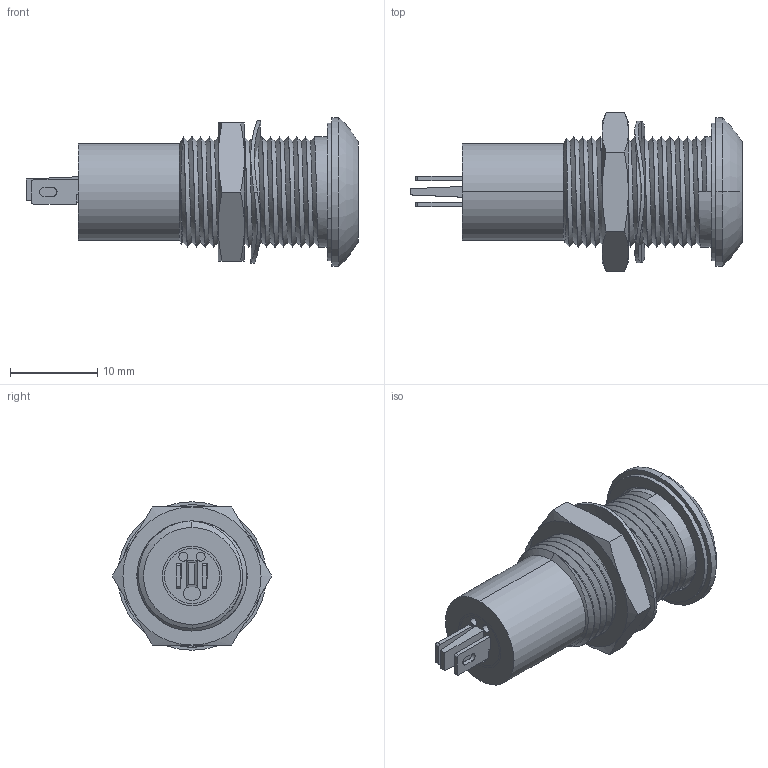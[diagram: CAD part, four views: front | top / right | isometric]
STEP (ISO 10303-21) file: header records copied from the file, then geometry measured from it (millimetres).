
FILE_DESCRIPTION (( 'STEP AP203' ), '1' );
FILE_NAME ('699 Series Above 50V.STEP', '2016-08-04T15:19:06', ( '' ), ( '' ), 'SwSTEP 2.0', 'SolidWorks 2016', '' );
FILE_SCHEMA (( 'CONFIG_CONTROL_DESIGN' ));
Length unit declared in the file: millimetre
Products named in the file (8): 699 Series  Above 50V; COM5000; M8SSCWASHER; COM7808B_NEW; COM3579; 10FDR; COM7865_Above 50V; COM7807HALFTAG
Assembly tree (8 placements, depth 2):
  699 Series  Above 50V
    COM7865_Above 50V
    COM5000
    10FDR
    M8SSCWASHER
    COM7808B_NEW
    COM7807HALFTAG  x2
    COM3579
Bounding box: 38 x 18.24 x 17 mm (x, y, z)
Volume: 3155.8 mm3; surface area: 4138.5 mm2
Topology: 8 solids, 8 shells, 403 faces, 903 edges, 549 vertices
Faces by surface type: cylinder 136, torus 136, plane 107, cone 14, bspline 10
Entity records: 14613 total; most frequent: CARTESIAN_POINT 5103, DIRECTION 2005, ORIENTED_EDGE 1704, AXIS2_PLACEMENT_3D 869, EDGE_CURVE 852, VERTEX_POINT 515, CIRCLE 484, EDGE_LOOP 437
